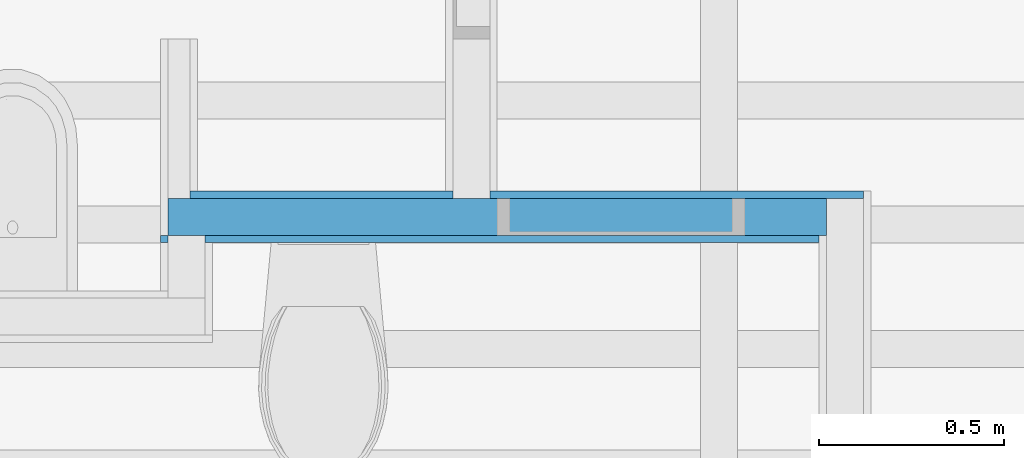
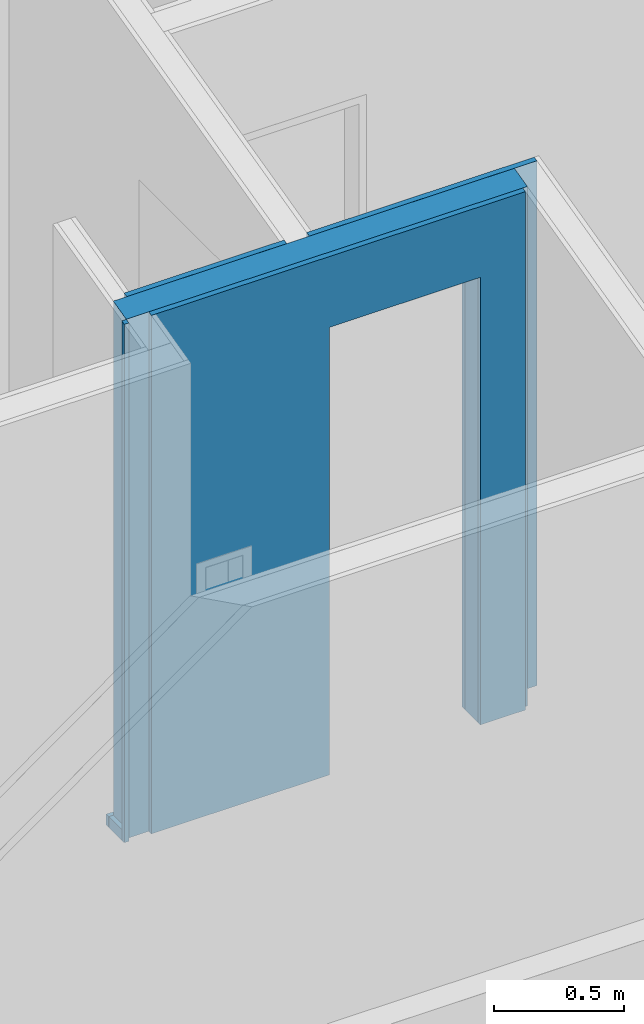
# One storey, part 8 of 13: 3 building element parts, 1 opening, 1 element without a shape of its own.
"""IFC2X3 building model written with IfcOpenShell, lengths in millimetres."""

from ifc_helpers import new_model, entity, si_unit, converted_unit, derived_unit, money_unit, direction, frame, origin_with_axes, origin_2d_with_axis, place, context, subcontext, project, spatial, polyline, rectangle, outline, extrude, boolean, faceted_brep, material, type_object, element, aggregate, save


model = new_model("IFC2X3")

# Units and contexts
model_context = context("Model", 3, precision=0.01, world=origin_with_axes(), true_north=direction((0.293984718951, 0.955810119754)))
body_context = subcontext(model_context, "Body", "Model", "MODEL_VIEW")
ifc_project = project(units=[si_unit("LENGTHUNIT", "METRE", prefix="MILLI"), si_unit("AREAUNIT", "SQUARE_METRE"), si_unit("VOLUMEUNIT", "CUBIC_METRE"), converted_unit("PLANEANGLEUNIT", "DEGREE", entity("IfcPlaneAngleMeasure", 0.0174532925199), si_unit("PLANEANGLEUNIT", "RADIAN"), dimensions=[0, 0, 0, 0, 0, 0, 0]), si_unit("SOLIDANGLEUNIT", "STERADIAN"), money_unit("USD"), converted_unit("TIMEUNIT", "Year", entity("IfcTimeMeasure", 31556926.0), si_unit("TIMEUNIT", "SECOND"), dimensions=[0, 0, 1, 0, 0, 0, 0]), si_unit("MASSUNIT", "GRAM", prefix="KILO"), si_unit("THERMODYNAMICTEMPERATUREUNIT", "DEGREE_CELSIUS"), si_unit("LUMINOUSINTENSITYUNIT", "LUMEN"), si_unit("ENERGYUNIT", "JOULE", prefix="MEGA"), derived_unit("THERMALCONDUCTANCEUNIT", [(si_unit("POWERUNIT", "WATT"), 1), (si_unit("LENGTHUNIT", "METRE"), -1), (si_unit("THERMODYNAMICTEMPERATUREUNIT", "KELVIN"), -1)]), derived_unit("SPECIFICHEATCAPACITYUNIT", [(si_unit("ENERGYUNIT", "JOULE"), 1), (si_unit("MASSUNIT", "GRAM", prefix="KILO"), -1), (si_unit("THERMODYNAMICTEMPERATUREUNIT", "KELVIN"), -1)]), derived_unit("MASSDENSITYUNIT", [(si_unit("MASSUNIT", "GRAM", prefix="KILO"), 1), (si_unit("VOLUMEUNIT", "CUBIC_METRE"), -1)])], contexts=[model_context])

# Site, building, storey
site_placement = place(None, origin_with_axes())
site = spatial("IfcSite", under=ifc_project, at=site_placement, Name="Local", CompositionType="ELEMENT")
building_placement = place(site_placement, origin_with_axes())
building = spatial("IfcBuilding", under=site, at=building_placement, Name="Construção", CompositionType="ELEMENT")
storey_placement = place(building_placement, frame((0.0, 0.0, 3050.0), z_axis=(0.0, 0.0, 1.0), x_axis=(1.0, 0.0, 0.0)))
storey = spatial("IfcBuildingStorey", under=building, at=storey_placement, Name="Primeiro Pavimento", CompositionType="ELEMENT", Elevation=3050.0)

# Wall, opening, building element parts
wall_type = type_object("IfcWallType", Name="Alvenaria Tijolo Maciço com Revestimento 14cm 140", PredefinedType="NOTDEFINED")
wall_placement = place(storey_placement, frame((10759.6450727, 7730.63219788, 0.0), z_axis=(0.0, 0.0, 1.0), x_axis=(-1.0, 0.0, 0.0)))
wall = element("IfcWall", 1, at=wall_placement, inside=storey, type_object=wall_type, Name="Parede")
opening_placement = place(wall_placement, frame((605.0, 2.34479102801e-10, 0.0), z_axis=(0.0, 0.0, 1.0), x_axis=(1.0, 0.0, 0.0)))
element("IfcOpeningElement", 2, at=opening_placement, cuts=wall, Name="P12", context=body_context, shape_type="SweptSolid", body=[
    extrude(rectangle(XDim=670.0, YDim=2100.0, at=origin_2d_with_axis()), frame((0.0, -140.0, 1050.0), z_axis=(0.0, -1.0, 0.0), x_axis=(-1.0, 0.0, 0.0)), (0.0, 0.0, -1.0), 420.0),
])
ifc_material_1 = material(Name="Reboco (1)")
building_element_part_1_placement = place(wall_placement, origin_with_axes())
building_element_part_1 = element("IfcBuildingElementPart", 3, at=building_element_part_1_placement, material=ifc_material_1, Name="Reboco (1)", context=body_context, shape_type="CSG", body=[
    boolean("DIFFERENCE", boolean("DIFFERENCE", boolean("DIFFERENCE", extrude(outline(polyline([(-70.0000000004, -70.0), (1850.0, -70.0), (1850.0, -50.0), (-70.0000000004, -50.0), (-70.0000000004, -70.0)])), origin_with_axes(), (0.0, 0.0, 1.0), 3211.87314734), faceted_brep([(960.0, -70.0000000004, 2467.21160876), (960.0, -70.0000000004, 0.0), (1060.0, -70.0000000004, 0.0), (1060.0, -70.0000000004, 2467.21160876), (1770.0, -70.0000000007, 2467.21160876), (1770.0, -70.0000000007, 50.0), (1850.0, -70.0000000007, 50.0), (1850.0, -70.0, 3211.87314734), (-70.0000000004, -70.0, 3211.87314734), (-70.0000000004, -70.0, 0.0), (-50.0000000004, -70.0, 0.0), (-50.0000000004, -70.0, 2467.21160876), (960.0, -50.0000000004, 2462.2250487), (960.0, -50.0000000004, 0.0), (1060.0, -50.0000000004, 0.0), (1060.0, -50.0000000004, 2462.2250487), (1770.0, -50.0000000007, 2462.2250487), (1770.0, -50.0000000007, 50.0), (1850.0, -50.0000000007, 50.0), (1850.0, -50.0, 3211.87314734), (-70.0000000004, -50.0, 3211.87314734), (-70.0000000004, -50.0, 0.0), (-50.0000000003, -50.0, 0.0), (-50.0000000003, -50.0, 2462.2250487)], [[[0, 1, 2, 3, 4, 5, 6, 7, 8, 9, 10, 11]], [[1, 0, 12, 13]], [[1, 13, 14, 2]], [[3, 2, 14, 15]], [[4, 3, 15, 16]], [[5, 4, 16, 17]], [[6, 5, 17, 18]], [[6, 18, 19, 7]], [[20, 8, 7, 19]], [[20, 21, 9, 8]], [[22, 10, 9, 21]], [[11, 10, 22, 23]], [[0, 11, 23, 12]], [[23, 22, 21, 20, 19, 18, 17, 16, 15, 14, 13, 12]]])), faceted_brep([(1830.0, -50.0000000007, 50.0), (1850.0, -50.0000000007, 50.0), (1850.0, -50.0, 3211.87314734), (-70.0000000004, -50.0, 3211.87314734), (-70.0000000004, -50.0, 0.0), (49.9999999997, -50.0, 0.0), (49.9999999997, -50.0, 2462.2250487), (1830.0, -50.0000000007, 2462.2250487), (1830.0, 49.9999999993, 50.0), (1850.0, 49.9999999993, 50.0), (1850.0, 50.0, 3211.87314734), (-70.0000000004, 50.0, 3211.87314734), (-70.0000000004, 50.0, 0.0), (50.0000000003, 50.0, 0.0), (50.0000000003, 50.0, 2437.29224842), (1830.0, 49.9999999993, 2437.29224842)], [[[0, 1, 2, 3, 4, 5, 6, 7]], [[8, 9, 1, 0]], [[1, 9, 10, 2]], [[11, 3, 2, 10]], [[11, 12, 4, 3]], [[13, 5, 4, 12]], [[6, 5, 13, 14]], [[14, 15, 7, 6]], [[0, 7, 15, 8]], [[14, 13, 12, 11, 10, 9, 8, 15]]])), faceted_brep([(1730.0, 49.9999999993, 2437.29224842), (1730.0, 49.9999999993, 0.0), (1830.0, 49.9999999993, 0.0), (1830.0, 49.9999999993, 2437.29224842), (1849.99999581, 49.9999999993, 2437.29224842), (1850.0, 50.0, 3211.87314734), (-70.0000000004, 50.0, 3211.87314734), (-70.0000000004, 50.0, 0.0), (70.0000000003, 50.0, 0.0), (70.0000000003, 50.0, 2437.29224842), (1730.0, 69.9999999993, 2432.30568836), (1730.0, 69.9999999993, 0.0), (1830.0, 69.9999999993, 0.0), (1830.0, 69.9999999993, 2432.30568836), (1849.99999581, 69.9999999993, 2432.30568836), (1850.0, 70.0, 3211.87314734), (-70.0000000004, 70.0, 3211.87314734), (-70.0000000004, 70.0, 0.0), (70.0000000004, 70.0, 0.0), (70.0000000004, 70.0, 2432.30568836)], [[[0, 1, 2, 3, 4, 5, 6, 7, 8, 9]], [[1, 0, 10, 11]], [[1, 11, 12, 2]], [[3, 2, 12, 13]], [[4, 3, 13, 14]], [[4, 14, 15, 5]], [[16, 6, 5, 15]], [[16, 17, 7, 6]], [[18, 8, 7, 17]], [[9, 8, 18, 19]], [[19, 10, 0, 9]], [[19, 18, 17, 16, 15, 14, 13, 12, 11, 10]]])),
])
ifc_material_2 = material(Name="Tijolo - Estrutural (1)")
building_element_part_2_placement = place(wall_placement, origin_with_axes())
building_element_part_2 = element("IfcBuildingElementPart", 4, at=building_element_part_2_placement, material=ifc_material_2, Name="Tijolo - Estrutural (1)", context=body_context, shape_type="CSG", body=[
    boolean("DIFFERENCE", boolean("DIFFERENCE", boolean("DIFFERENCE", extrude(outline(polyline([(-70.0000000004, -50.0), (1850.0, -50.0), (1850.0, 50.0), (-70.0000000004, 50.0), (-70.0000000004, -50.0)])), origin_with_axes(), (0.0, 0.0, 1.0), 3211.87314734), faceted_brep([(960.0, -70.0000000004, 2467.21160876), (960.0, -70.0000000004, 0.0), (1060.0, -70.0000000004, 0.0), (1060.0, -70.0000000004, 2467.21160876), (1770.0, -70.0000000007, 2467.21160876), (1770.0, -70.0000000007, 50.0), (1850.0, -70.0000000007, 50.0), (1850.0, -70.0, 3211.87314734), (-70.0000000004, -70.0, 3211.87314734), (-70.0000000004, -70.0, 0.0), (-50.0000000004, -70.0, 0.0), (-50.0000000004, -70.0, 2467.21160876), (960.0, -50.0000000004, 2462.2250487), (960.0, -50.0000000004, 0.0), (1060.0, -50.0000000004, 0.0), (1060.0, -50.0000000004, 2462.2250487), (1770.0, -50.0000000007, 2462.2250487), (1770.0, -50.0000000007, 50.0), (1850.0, -50.0000000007, 50.0), (1850.0, -50.0, 3211.87314734), (-70.0000000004, -50.0, 3211.87314734), (-70.0000000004, -50.0, 0.0), (-50.0000000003, -50.0, 0.0), (-50.0000000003, -50.0, 2462.2250487)], [[[0, 1, 2, 3, 4, 5, 6, 7, 8, 9, 10, 11]], [[1, 0, 12, 13]], [[1, 13, 14, 2]], [[3, 2, 14, 15]], [[4, 3, 15, 16]], [[5, 4, 16, 17]], [[6, 5, 17, 18]], [[6, 18, 19, 7]], [[20, 8, 7, 19]], [[20, 21, 9, 8]], [[22, 10, 9, 21]], [[11, 10, 22, 23]], [[0, 11, 23, 12]], [[23, 22, 21, 20, 19, 18, 17, 16, 15, 14, 13, 12]]])), faceted_brep([(1830.0, -50.0000000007, 50.0), (1850.0, -50.0000000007, 50.0), (1850.0, -50.0, 3211.87314734), (-70.0000000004, -50.0, 3211.87314734), (-70.0000000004, -50.0, 0.0), (49.9999999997, -50.0, 0.0), (49.9999999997, -50.0, 2462.2250487), (1830.0, -50.0000000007, 2462.2250487), (1830.0, 49.9999999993, 50.0), (1850.0, 49.9999999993, 50.0), (1850.0, 50.0, 3211.87314734), (-70.0000000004, 50.0, 3211.87314734), (-70.0000000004, 50.0, 0.0), (50.0000000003, 50.0, 0.0), (50.0000000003, 50.0, 2437.29224842), (1830.0, 49.9999999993, 2437.29224842)], [[[0, 1, 2, 3, 4, 5, 6, 7]], [[8, 9, 1, 0]], [[1, 9, 10, 2]], [[11, 3, 2, 10]], [[11, 12, 4, 3]], [[13, 5, 4, 12]], [[6, 5, 13, 14]], [[14, 15, 7, 6]], [[0, 7, 15, 8]], [[14, 13, 12, 11, 10, 9, 8, 15]]])), faceted_brep([(1730.0, 49.9999999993, 2437.29224842), (1730.0, 49.9999999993, 0.0), (1830.0, 49.9999999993, 0.0), (1830.0, 49.9999999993, 2437.29224842), (1849.99999581, 49.9999999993, 2437.29224842), (1850.0, 50.0, 3211.87314734), (-70.0000000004, 50.0, 3211.87314734), (-70.0000000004, 50.0, 0.0), (70.0000000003, 50.0, 0.0), (70.0000000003, 50.0, 2437.29224842), (1730.0, 69.9999999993, 2432.30568836), (1730.0, 69.9999999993, 0.0), (1830.0, 69.9999999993, 0.0), (1830.0, 69.9999999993, 2432.30568836), (1849.99999581, 69.9999999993, 2432.30568836), (1850.0, 70.0, 3211.87314734), (-70.0000000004, 70.0, 3211.87314734), (-70.0000000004, 70.0, 0.0), (70.0000000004, 70.0, 0.0), (70.0000000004, 70.0, 2432.30568836)], [[[0, 1, 2, 3, 4, 5, 6, 7, 8, 9]], [[1, 0, 10, 11]], [[1, 11, 12, 2]], [[3, 2, 12, 13]], [[4, 3, 13, 14]], [[4, 14, 15, 5]], [[16, 6, 5, 15]], [[16, 17, 7, 6]], [[18, 8, 7, 17]], [[9, 8, 18, 19]], [[19, 10, 0, 9]], [[19, 18, 17, 16, 15, 14, 13, 12, 11, 10]]])),
])
building_element_part_3_placement = place(wall_placement, origin_with_axes())
building_element_part_3 = element("IfcBuildingElementPart", 5, at=building_element_part_3_placement, material=ifc_material_1, Name="Reboco (1)", context=body_context, shape_type="CSG", body=[
    boolean("DIFFERENCE", boolean("DIFFERENCE", boolean("DIFFERENCE", extrude(outline(polyline([(-70.0000000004, 50.0), (1850.0, 50.0), (1850.0, 70.0), (-70.0000000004, 70.0), (-70.0000000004, 50.0)])), origin_with_axes(), (0.0, 0.0, 1.0), 3211.87314734), faceted_brep([(960.0, -70.0000000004, 2467.21160876), (960.0, -70.0000000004, 0.0), (1060.0, -70.0000000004, 0.0), (1060.0, -70.0000000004, 2467.21160876), (1770.0, -70.0000000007, 2467.21160876), (1770.0, -70.0000000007, 50.0), (1850.0, -70.0000000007, 50.0), (1850.0, -70.0, 3211.87314734), (-70.0000000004, -70.0, 3211.87314734), (-70.0000000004, -70.0, 0.0), (-50.0000000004, -70.0, 0.0), (-50.0000000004, -70.0, 2467.21160876), (960.0, -50.0000000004, 2462.2250487), (960.0, -50.0000000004, 0.0), (1060.0, -50.0000000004, 0.0), (1060.0, -50.0000000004, 2462.2250487), (1770.0, -50.0000000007, 2462.2250487), (1770.0, -50.0000000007, 50.0), (1850.0, -50.0000000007, 50.0), (1850.0, -50.0, 3211.87314734), (-70.0000000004, -50.0, 3211.87314734), (-70.0000000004, -50.0, 0.0), (-50.0000000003, -50.0, 0.0), (-50.0000000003, -50.0, 2462.2250487)], [[[0, 1, 2, 3, 4, 5, 6, 7, 8, 9, 10, 11]], [[1, 0, 12, 13]], [[1, 13, 14, 2]], [[3, 2, 14, 15]], [[4, 3, 15, 16]], [[5, 4, 16, 17]], [[6, 5, 17, 18]], [[6, 18, 19, 7]], [[20, 8, 7, 19]], [[20, 21, 9, 8]], [[22, 10, 9, 21]], [[11, 10, 22, 23]], [[0, 11, 23, 12]], [[23, 22, 21, 20, 19, 18, 17, 16, 15, 14, 13, 12]]])), faceted_brep([(1830.0, -50.0000000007, 50.0), (1850.0, -50.0000000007, 50.0), (1850.0, -50.0, 3211.87314734), (-70.0000000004, -50.0, 3211.87314734), (-70.0000000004, -50.0, 0.0), (49.9999999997, -50.0, 0.0), (49.9999999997, -50.0, 2462.2250487), (1830.0, -50.0000000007, 2462.2250487), (1830.0, 49.9999999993, 50.0), (1850.0, 49.9999999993, 50.0), (1850.0, 50.0, 3211.87314734), (-70.0000000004, 50.0, 3211.87314734), (-70.0000000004, 50.0, 0.0), (50.0000000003, 50.0, 0.0), (50.0000000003, 50.0, 2437.29224842), (1830.0, 49.9999999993, 2437.29224842)], [[[0, 1, 2, 3, 4, 5, 6, 7]], [[8, 9, 1, 0]], [[1, 9, 10, 2]], [[11, 3, 2, 10]], [[11, 12, 4, 3]], [[13, 5, 4, 12]], [[6, 5, 13, 14]], [[14, 15, 7, 6]], [[0, 7, 15, 8]], [[14, 13, 12, 11, 10, 9, 8, 15]]])), faceted_brep([(1730.0, 49.9999999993, 2437.29224842), (1730.0, 49.9999999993, 0.0), (1830.0, 49.9999999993, 0.0), (1830.0, 49.9999999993, 2437.29224842), (1849.99999581, 49.9999999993, 2437.29224842), (1850.0, 50.0, 3211.87314734), (-70.0000000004, 50.0, 3211.87314734), (-70.0000000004, 50.0, 0.0), (70.0000000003, 50.0, 0.0), (70.0000000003, 50.0, 2437.29224842), (1730.0, 69.9999999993, 2432.30568836), (1730.0, 69.9999999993, 0.0), (1830.0, 69.9999999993, 0.0), (1830.0, 69.9999999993, 2432.30568836), (1849.99999581, 69.9999999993, 2432.30568836), (1850.0, 70.0, 3211.87314734), (-70.0000000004, 70.0, 3211.87314734), (-70.0000000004, 70.0, 0.0), (70.0000000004, 70.0, 0.0), (70.0000000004, 70.0, 2432.30568836)], [[[0, 1, 2, 3, 4, 5, 6, 7, 8, 9]], [[1, 0, 10, 11]], [[1, 11, 12, 2]], [[3, 2, 12, 13]], [[4, 3, 13, 14]], [[4, 14, 15, 5]], [[16, 6, 5, 15]], [[16, 17, 7, 6]], [[18, 8, 7, 17]], [[9, 8, 18, 19]], [[19, 10, 0, 9]], [[19, 18, 17, 16, 15, 14, 13, 12, 11, 10]]])),
])
aggregate(wall, [building_element_part_1, building_element_part_2, building_element_part_3])

save(model, "model.ifc")
